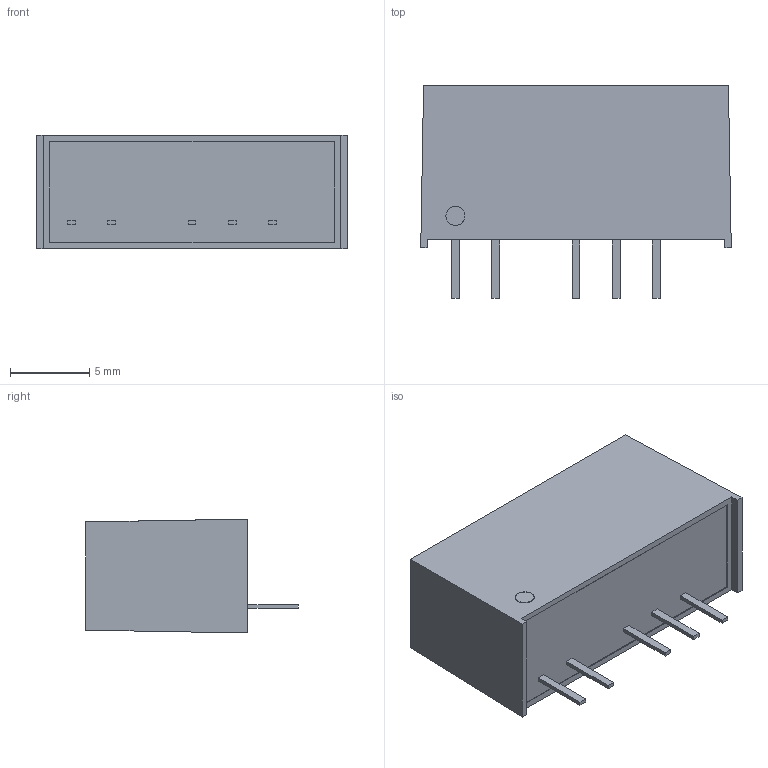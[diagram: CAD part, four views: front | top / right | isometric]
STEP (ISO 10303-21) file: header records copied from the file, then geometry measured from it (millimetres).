
FILE_DESCRIPTION (( 'STEP AP203' ), '1' );
FILE_NAME ('EC1SA 24V 2023.07.18.STEP', '2023-07-21T10:16:00', ( '' ), ( '' ), 'SwSTEP 2.0', 'SolidWorks 2020', '' );
FILE_SCHEMA (( 'CONFIG_CONTROL_DESIGN' ));
Length unit declared in the file: millimetre
Products named in the file (1): EC1SA 24V 2023.07.18
Bounding box: 19.63 x 13.43 x 7.21 mm (x, y, z)
Volume: 1326.2 mm3; surface area: 833.5 mm2
Topology: 1 solids, 1 shells, 42 faces, 99 edges, 66 vertices
Faces by surface type: plane 41, cylinder 1
Full cylindrical faces by diameter (mm): 1.2 x1
Entity records: 1261 total; most frequent: CARTESIAN_POINT 219, ORIENTED_EDGE 196, DIRECTION 182, EDGE_CURVE 98, VECTOR 96, LINE 96, VERTEX_POINT 66, EDGE_LOOP 50
